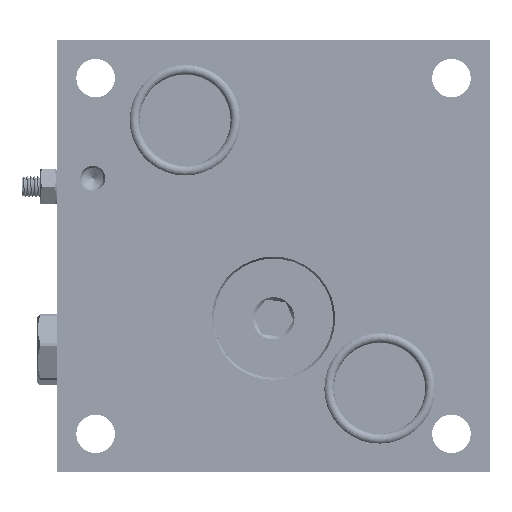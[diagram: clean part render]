
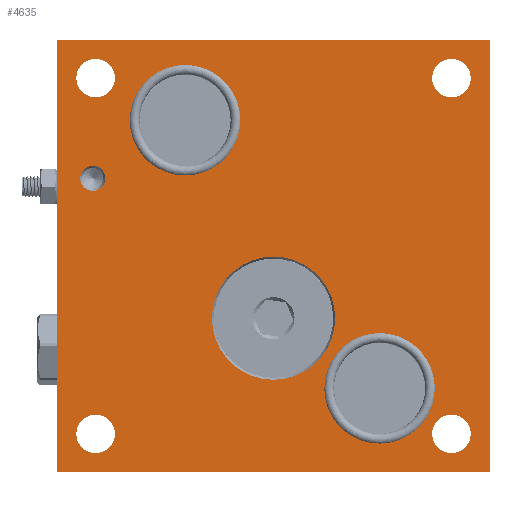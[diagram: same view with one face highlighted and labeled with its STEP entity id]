
A CAD part, front view. The second image highlights one B-rep face of the part: STEP entity #4635.
In plain terms, the highlighted planar face has unit normal (0, -1, 0).
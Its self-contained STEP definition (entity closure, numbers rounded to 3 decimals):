
#2060=LINE('',#38865,#2765);
#2142=LINE('',#41022,#2847);
#2145=LINE('',#41036,#2850);
#2146=LINE('',#41037,#2851);
#2765=VECTOR('',#16759,1.);
#2847=VECTOR('',#17215,1.);
#2850=VECTOR('',#17228,1.);
#2851=VECTOR('',#17229,1.);
#4635=ADVANCED_FACE('',(#6064,#6065,#6066,#6067,#6068,#6069,#6070,#6071,
#6072),#5308,.T.);
#5308=PLANE('',#14877);
#6064=FACE_BOUND('',#6870,.T.);
#6065=FACE_BOUND('',#6871,.T.);
#6066=FACE_BOUND('',#6872,.T.);
#6067=FACE_BOUND('',#6873,.T.);
#6068=FACE_BOUND('',#6874,.T.);
#6069=FACE_BOUND('',#6875,.T.);
#6070=FACE_BOUND('',#6876,.T.);
#6071=FACE_BOUND('',#6877,.T.);
#6072=FACE_BOUND('',#6878,.T.);
#6870=EDGE_LOOP('',(#8874));
#6871=EDGE_LOOP('',(#8875));
#6872=EDGE_LOOP('',(#8876));
#6873=EDGE_LOOP('',(#8877));
#6874=EDGE_LOOP('',(#8878));
#6875=EDGE_LOOP('',(#8879));
#6876=EDGE_LOOP('',(#8880));
#6877=EDGE_LOOP('',(#8881));
#6878=EDGE_LOOP('',(#8882,#8883,#8884,#8885));
#8874=ORIENTED_EDGE('',*,*,#12749,.T.);
#8875=ORIENTED_EDGE('',*,*,#12750,.F.);
#8876=ORIENTED_EDGE('',*,*,#12751,.F.);
#8877=ORIENTED_EDGE('',*,*,#12752,.T.);
#8878=ORIENTED_EDGE('',*,*,#12734,.T.);
#8879=ORIENTED_EDGE('',*,*,#12733,.T.);
#8880=ORIENTED_EDGE('',*,*,#12732,.T.);
#8881=ORIENTED_EDGE('',*,*,#12731,.T.);
#8882=ORIENTED_EDGE('',*,*,#12753,.F.);
#8883=ORIENTED_EDGE('',*,*,#12526,.F.);
#8884=ORIENTED_EDGE('',*,*,#12754,.T.);
#8885=ORIENTED_EDGE('',*,*,#12746,.T.);
#11225=VERTEX_POINT('',#38860);
#11227=VERTEX_POINT('',#38864);
#11360=VERTEX_POINT('',#40984);
#11361=VERTEX_POINT('',#40987);
#11362=VERTEX_POINT('',#40990);
#11363=VERTEX_POINT('',#40993);
#11371=VERTEX_POINT('',#41021);
#11372=VERTEX_POINT('',#41023);
#11374=VERTEX_POINT('',#41029);
#11375=VERTEX_POINT('',#41031);
#11376=VERTEX_POINT('',#41033);
#11377=VERTEX_POINT('',#41035);
#12526=EDGE_CURVE('',#11227,#11225,#2060,.T.);
#12731=EDGE_CURVE('',#11360,#11360,#13919,.T.);
#12732=EDGE_CURVE('',#11361,#11361,#13920,.T.);
#12733=EDGE_CURVE('',#11362,#11362,#13921,.T.);
#12734=EDGE_CURVE('',#11363,#11363,#13922,.T.);
#12746=EDGE_CURVE('',#11372,#11371,#2142,.T.);
#12749=EDGE_CURVE('',#11374,#11374,#13929,.T.);
#12750=EDGE_CURVE('',#11375,#11375,#13930,.T.);
#12751=EDGE_CURVE('',#11376,#11376,#13931,.T.);
#12752=EDGE_CURVE('',#11377,#11377,#13932,.T.);
#12753=EDGE_CURVE('',#11225,#11371,#2145,.T.);
#12754=EDGE_CURVE('',#11227,#11372,#2146,.T.);
#13919=CIRCLE('',#14850,5.5);
#13920=CIRCLE('',#14852,5.5);
#13921=CIRCLE('',#14854,5.5);
#13922=CIRCLE('',#14856,5.5);
#13929=CIRCLE('',#14873,3.577);
#13930=CIRCLE('',#14874,15.75);
#13931=CIRCLE('',#14875,15.75);
#13932=CIRCLE('',#14876,17.577);
#14850=AXIS2_PLACEMENT_3D('',#40983,#17166,#17167);
#14852=AXIS2_PLACEMENT_3D('',#40986,#17170,#17171);
#14854=AXIS2_PLACEMENT_3D('',#40989,#17174,#17175);
#14856=AXIS2_PLACEMENT_3D('',#40992,#17178,#17179);
#14873=AXIS2_PLACEMENT_3D('',#41028,#17220,#17221);
#14874=AXIS2_PLACEMENT_3D('',#41030,#17222,#17223);
#14875=AXIS2_PLACEMENT_3D('',#41032,#17224,#17225);
#14876=AXIS2_PLACEMENT_3D('',#41034,#17226,#17227);
#14877=AXIS2_PLACEMENT_3D('',#41038,#17230,#17231);
#16759=DIRECTION('',(0.,0.,1.));
#17166=DIRECTION('',(0.,1.,0.));
#17167=DIRECTION('',(0.,0.,1.));
#17170=DIRECTION('',(0.,1.,0.));
#17171=DIRECTION('',(0.,0.,1.));
#17174=DIRECTION('',(0.,1.,0.));
#17175=DIRECTION('',(0.,0.,1.));
#17178=DIRECTION('',(0.,1.,0.));
#17179=DIRECTION('',(0.,0.,1.));
#17215=DIRECTION('',(0.,0.,1.));
#17220=DIRECTION('',(0.,1.,0.));
#17221=DIRECTION('',(0.,0.,-1.));
#17222=DIRECTION('',(0.,-1.,0.));
#17223=DIRECTION('',(0.,0.,-1.));
#17224=DIRECTION('',(0.,-1.,0.));
#17225=DIRECTION('',(0.,0.,-1.));
#17226=DIRECTION('',(0.,1.,0.));
#17227=DIRECTION('',(0.,0.,1.));
#17228=DIRECTION('',(1.,0.,0.));
#17229=DIRECTION('',(1.,0.,0.));
#17230=DIRECTION('',(0.,-1.,0.));
#17231=DIRECTION('',(0.,0.,-1.));
#38860=CARTESIAN_POINT('',(-198.367,-64.69,185.345));
#38864=CARTESIAN_POINT('',(-198.367,-64.69,61.845));
#38865=CARTESIAN_POINT('',(-198.367,-64.69,61.845));
#40983=CARTESIAN_POINT('',(-187.367,-64.69,72.845));
#40984=CARTESIAN_POINT('',(-187.367,-64.69,78.345));
#40986=CARTESIAN_POINT('',(-187.367,-64.69,174.345));
#40987=CARTESIAN_POINT('',(-187.367,-64.69,179.845));
#40989=CARTESIAN_POINT('',(-85.867,-64.69,174.345));
#40990=CARTESIAN_POINT('',(-85.867,-64.69,179.845));
#40992=CARTESIAN_POINT('',(-85.867,-64.69,72.845));
#40993=CARTESIAN_POINT('',(-85.867,-64.69,78.345));
#41021=CARTESIAN_POINT('',(-74.867,-64.69,185.345));
#41022=CARTESIAN_POINT('',(-74.867,-64.69,61.845));
#41023=CARTESIAN_POINT('',(-74.867,-64.69,61.845));
#41028=CARTESIAN_POINT('',(-188.167,-64.69,145.745));
#41029=CARTESIAN_POINT('',(-188.167,-64.69,142.167));
#41030=CARTESIAN_POINT('',(-106.367,-64.69,85.845));
#41031=CARTESIAN_POINT('',(-106.367,-64.69,70.095));
#41032=CARTESIAN_POINT('',(-161.867,-64.69,162.345));
#41033=CARTESIAN_POINT('',(-161.867,-64.69,146.595));
#41034=CARTESIAN_POINT('',(-136.617,-64.69,105.845));
#41035=CARTESIAN_POINT('',(-136.617,-64.69,123.422));
#41036=CARTESIAN_POINT('',(-136.617,-64.69,185.345));
#41037=CARTESIAN_POINT('',(-136.617,-64.69,61.845));
#41038=CARTESIAN_POINT('',(-136.617,-64.69,61.845));
